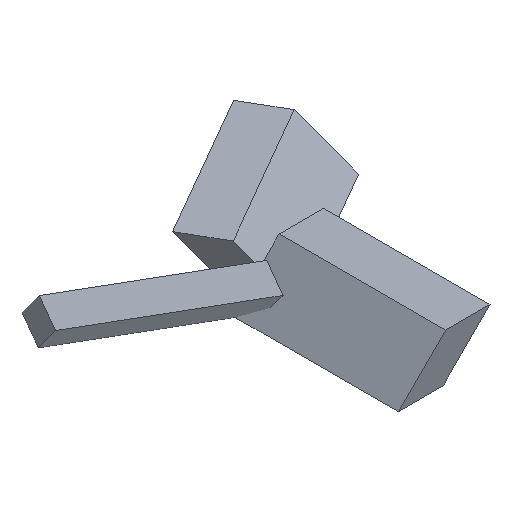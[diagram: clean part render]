
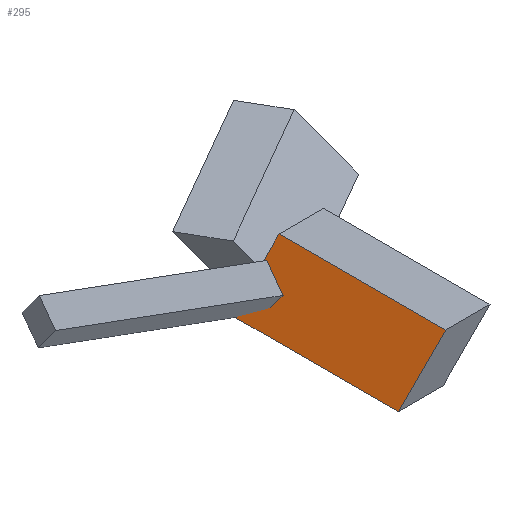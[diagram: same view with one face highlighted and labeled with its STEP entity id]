
A CAD part, isometric view. The second image highlights one B-rep face of the part: STEP entity #295.
In plain terms, the highlighted planar face has unit normal (-0.707, 0, 0.707).
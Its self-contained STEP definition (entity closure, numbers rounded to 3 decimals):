
#32 = EDGE_CURVE('',#33,#35,#37,.T.);
#33 = VERTEX_POINT('',#34);
#34 = CARTESIAN_POINT('',(3.485,0.,
    8.485));
#35 = VERTEX_POINT('',#36);
#36 = CARTESIAN_POINT('',(3.485,-30.,8.485));
#37 = SURFACE_CURVE('',#38,(#42,#54),.PCURVE_S1.);
#38 = LINE('',#39,#40);
#39 = CARTESIAN_POINT('',(3.485,0.,
    8.485));
#40 = VECTOR('',#41,1.);
#41 = DIRECTION('',(0.,-1.,0.));
#42 = PCURVE('',#43,#48);
#43 = PLANE('',#44);
#44 = AXIS2_PLACEMENT_3D('',#45,#46,#47);
#45 = CARTESIAN_POINT('',(3.485,0.,
    8.485));
#46 = DIRECTION('',(0.,0.,1.));
#47 = DIRECTION('',(1.,0.,0.));
#48 = DEFINITIONAL_REPRESENTATION('',(#49),#53);
#49 = LINE('',#50,#51);
#50 = CARTESIAN_POINT('',(0.,0.));
#51 = VECTOR('',#52,1.);
#52 = DIRECTION('',(0.,-1.));
#53 = ( GEOMETRIC_REPRESENTATION_CONTEXT(2) 
PARAMETRIC_REPRESENTATION_CONTEXT() REPRESENTATION_CONTEXT('2D SPACE',''
  ) );
#54 = PCURVE('',#55,#60);
#55 = PLANE('',#56);
#56 = AXIS2_PLACEMENT_3D('',#57,#58,#59);
#57 = CARTESIAN_POINT('',(-5.,0.,0.));
#58 = DIRECTION('',(-0.707,0.,0.707));
#59 = DIRECTION('',(0.707,0.,0.707));
#60 = DEFINITIONAL_REPRESENTATION('',(#61),#65);
#61 = LINE('',#62,#63);
#62 = CARTESIAN_POINT('',(12.,0.));
#63 = VECTOR('',#64,1.);
#64 = DIRECTION('',(0.,-1.));
#65 = ( GEOMETRIC_REPRESENTATION_CONTEXT(2) 
PARAMETRIC_REPRESENTATION_CONTEXT() REPRESENTATION_CONTEXT('2D SPACE',''
  ) );
#83 = PLANE('',#84);
#84 = AXIS2_PLACEMENT_3D('',#85,#86,#87);
#85 = CARTESIAN_POINT('',(3.485,-30.,8.485));
#86 = DIRECTION('',(0.,-1.,0.));
#87 = DIRECTION('',(0.,0.,-1.));
#137 = PLANE('',#138);
#138 = AXIS2_PLACEMENT_3D('',#139,#140,#141);
#139 = CARTESIAN_POINT('',(3.485,0.,
    8.485));
#140 = DIRECTION('',(0.,-1.,0.));
#141 = DIRECTION('',(0.,0.,-1.));
#192 = PLANE('',#193);
#193 = AXIS2_PLACEMENT_3D('',#194,#195,#196);
#194 = CARTESIAN_POINT('',(3.,0.,0.));
#195 = DIRECTION('',(0.,0.,-1.));
#196 = DIRECTION('',(-1.,0.,0.));
#230 = VERTEX_POINT('',#231);
#231 = CARTESIAN_POINT('',(-5.,-30.,0.));
#252 = EDGE_CURVE('',#253,#230,#255,.T.);
#253 = VERTEX_POINT('',#254);
#254 = CARTESIAN_POINT('',(-5.,0.,0.));
#255 = SURFACE_CURVE('',#256,(#260,#267),.PCURVE_S1.);
#256 = LINE('',#257,#258);
#257 = CARTESIAN_POINT('',(-5.,0.,0.));
#258 = VECTOR('',#259,1.);
#259 = DIRECTION('',(0.,-1.,0.));
#260 = PCURVE('',#192,#261);
#261 = DEFINITIONAL_REPRESENTATION('',(#262),#266);
#262 = LINE('',#263,#264);
#263 = CARTESIAN_POINT('',(8.,0.));
#264 = VECTOR('',#265,1.);
#265 = DIRECTION('',(0.,-1.));
#266 = ( GEOMETRIC_REPRESENTATION_CONTEXT(2) 
PARAMETRIC_REPRESENTATION_CONTEXT() REPRESENTATION_CONTEXT('2D SPACE',''
  ) );
#267 = PCURVE('',#55,#268);
#268 = DEFINITIONAL_REPRESENTATION('',(#269),#273);
#269 = LINE('',#270,#271);
#270 = CARTESIAN_POINT('',(0.,0.));
#271 = VECTOR('',#272,1.);
#272 = DIRECTION('',(0.,-1.));
#273 = ( GEOMETRIC_REPRESENTATION_CONTEXT(2) 
PARAMETRIC_REPRESENTATION_CONTEXT() REPRESENTATION_CONTEXT('2D SPACE',''
  ) );
#295 = ADVANCED_FACE('',(#296),#55,.T.);
#296 = FACE_BOUND('',#297,.T.);
#297 = EDGE_LOOP('',(#298,#299,#320,#321));
#298 = ORIENTED_EDGE('',*,*,#252,.T.);
#299 = ORIENTED_EDGE('',*,*,#300,.T.);
#300 = EDGE_CURVE('',#230,#35,#301,.T.);
#301 = SURFACE_CURVE('',#302,(#306,#313),.PCURVE_S1.);
#302 = LINE('',#303,#304);
#303 = CARTESIAN_POINT('',(-5.,-30.,0.));
#304 = VECTOR('',#305,1.);
#305 = DIRECTION('',(0.707,0.,0.707));
#306 = PCURVE('',#55,#307);
#307 = DEFINITIONAL_REPRESENTATION('',(#308),#312);
#308 = LINE('',#309,#310);
#309 = CARTESIAN_POINT('',(0.,-30.));
#310 = VECTOR('',#311,1.);
#311 = DIRECTION('',(1.,0.));
#312 = ( GEOMETRIC_REPRESENTATION_CONTEXT(2) 
PARAMETRIC_REPRESENTATION_CONTEXT() REPRESENTATION_CONTEXT('2D SPACE',''
  ) );
#313 = PCURVE('',#83,#314);
#314 = DEFINITIONAL_REPRESENTATION('',(#315),#319);
#315 = LINE('',#316,#317);
#316 = CARTESIAN_POINT('',(8.485,-8.485));
#317 = VECTOR('',#318,1.);
#318 = DIRECTION('',(-0.707,0.707));
#319 = ( GEOMETRIC_REPRESENTATION_CONTEXT(2) 
PARAMETRIC_REPRESENTATION_CONTEXT() REPRESENTATION_CONTEXT('2D SPACE',''
  ) );
#320 = ORIENTED_EDGE('',*,*,#32,.F.);
#321 = ORIENTED_EDGE('',*,*,#322,.F.);
#322 = EDGE_CURVE('',#253,#33,#323,.T.);
#323 = SURFACE_CURVE('',#324,(#328,#335),.PCURVE_S1.);
#324 = LINE('',#325,#326);
#325 = CARTESIAN_POINT('',(-5.,0.,0.));
#326 = VECTOR('',#327,1.);
#327 = DIRECTION('',(0.707,0.,0.707));
#328 = PCURVE('',#55,#329);
#329 = DEFINITIONAL_REPRESENTATION('',(#330),#334);
#330 = LINE('',#331,#332);
#331 = CARTESIAN_POINT('',(0.,0.));
#332 = VECTOR('',#333,1.);
#333 = DIRECTION('',(1.,0.));
#334 = ( GEOMETRIC_REPRESENTATION_CONTEXT(2) 
PARAMETRIC_REPRESENTATION_CONTEXT() REPRESENTATION_CONTEXT('2D SPACE',''
  ) );
#335 = PCURVE('',#137,#336);
#336 = DEFINITIONAL_REPRESENTATION('',(#337),#341);
#337 = LINE('',#338,#339);
#338 = CARTESIAN_POINT('',(8.485,-8.485));
#339 = VECTOR('',#340,1.);
#340 = DIRECTION('',(-0.707,0.707));
#341 = ( GEOMETRIC_REPRESENTATION_CONTEXT(2) 
PARAMETRIC_REPRESENTATION_CONTEXT() REPRESENTATION_CONTEXT('2D SPACE',''
  ) );
